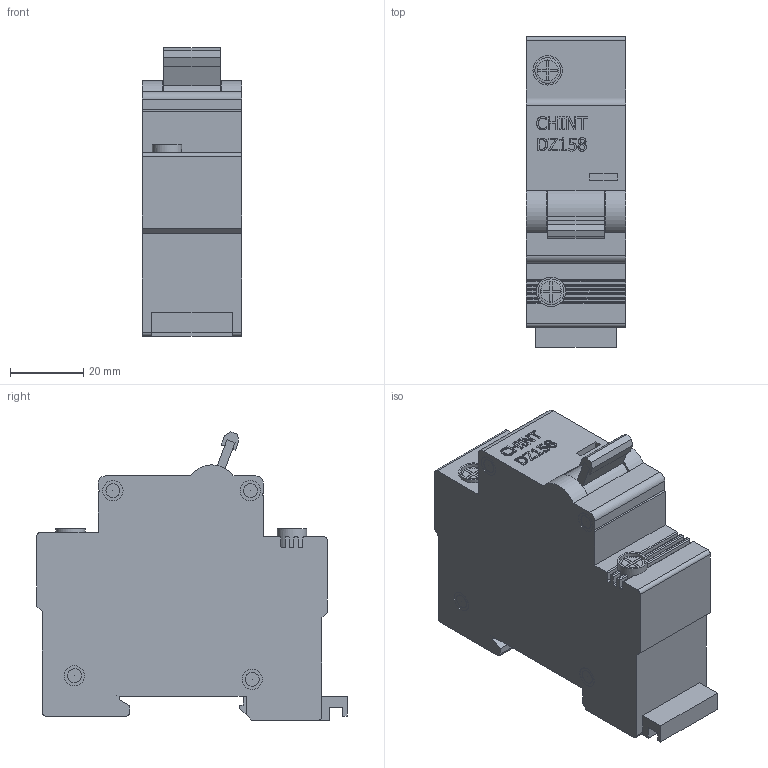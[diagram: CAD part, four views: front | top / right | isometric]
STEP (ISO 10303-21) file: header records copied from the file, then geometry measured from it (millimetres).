
FILE_DESCRIPTION(/* description */ (''),/* implementation_level */ '2;1');
FILE_NAME(/* name */ 'D:\CHINT\DZ158\Авт. выкл. DZ158 1P 63A 10kA х-ка (8-12In) (R) (CHINT).stp',/* time_stamp */ '2017-09-24T18:50:39+04:00',/* author */ ('RSagdiev'),/* organization */ (''),/* preprocessor_version */ 'ST-DEVELOPER v16.5',/* originating_system */ 'Autodesk Inventor 2017',/* authorisation */ '');
FILE_SCHEMA (('AUTOMOTIVE_DESIGN { 1 0 10303 214 3 1 1 }'));
Length unit declared in the file: millimetre
Products named in the file (1): Авт. выкл. DZ158 1P 63A 10kA \X2\0445
\X0\-ка (8-12In) (R) (CHINT)
Bounding box: 27 x 84.5 x 78.49 mm (x, y, z)
Volume: 119792.8 mm3; surface area: 21730.7 mm2
Topology: 6 solids, 6 shells, 359 faces, 954 edges, 632 vertices
Faces by surface type: plane 230, cylinder 70, bspline 57, torus 2
Full cylindrical faces by diameter (mm): 0.001 x5, 3.794 x6, 5.491 x8, 7 x2, 8 x2
Entity records: 11664 total; most frequent: CARTESIAN_POINT 3055, ORIENTED_EDGE 1852, DIRECTION 1531, EDGE_CURVE 926, LINE 651, VECTOR 651, VERTEX_POINT 629, AXIS2_PLACEMENT_3D 440
